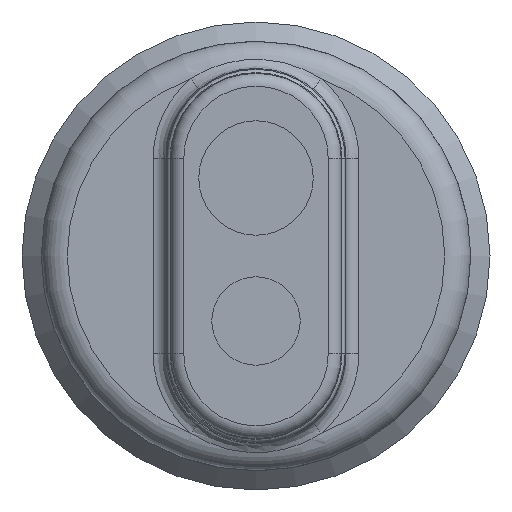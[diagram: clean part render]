
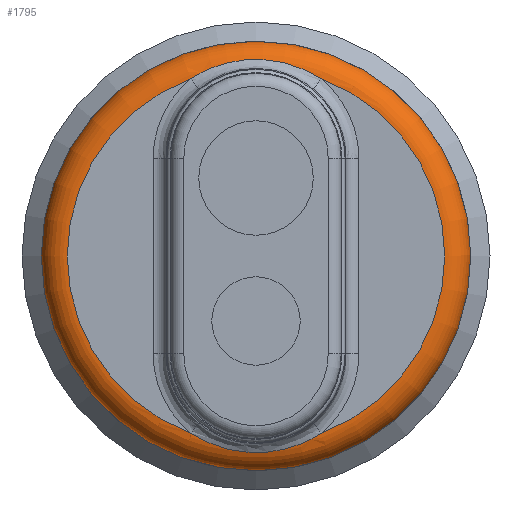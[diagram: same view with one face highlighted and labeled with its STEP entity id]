
A CAD part, left-side view. The second image highlights one B-rep face of the part: STEP entity #1795.
In plain terms, the highlighted toroidal (fillet/blend) face has major radius 7.26 mm and minor radius 1 mm.
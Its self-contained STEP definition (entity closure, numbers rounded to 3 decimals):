
#1309=CARTESIAN_POINT('',(-58.718,-2.506,-6.814));
#1310=VERTEX_POINT('',#1309);
#1427=CARTESIAN_POINT('',(-58.718,2.506,-6.814));
#1428=VERTEX_POINT('',#1427);
#1436=CARTESIAN_POINT('',(-58.718,2.506,-6.814));
#1437=CARTESIAN_POINT('',(-58.718,2.297,-6.95));
#1438=CARTESIAN_POINT('',(-58.709,1.852,-7.193));
#1439=CARTESIAN_POINT('',(-58.682,1.015,-7.482));
#1440=CARTESIAN_POINT('',(-58.669,0.257,-7.579));
#1441=CARTESIAN_POINT('',(-58.673,-0.441,-7.55));
#1442=CARTESIAN_POINT('',(-58.679,-0.82,-7.494));
#1443=CARTESIAN_POINT('',(-58.692,-1.31,-7.38));
#1444=CARTESIAN_POINT('',(-58.708,-1.852,-7.193));
#1445=CARTESIAN_POINT('',(-58.718,-2.297,-6.95));
#1446=CARTESIAN_POINT('',(-58.718,-2.506,-6.814));
#1447=B_SPLINE_CURVE_WITH_KNOTS('',3,(#1436,#1437,#1438,#1439,#1440,#1441,#1442,#1443,#1444,#1445,#1446),.UNSPECIFIED.,.F.,.U.,(4,1,1,1,1,1,1,1,4),(0.,0.077,0.154,0.27,0.309,0.367,0.386,0.463,0.541),.UNSPECIFIED.);
#1448=EDGE_CURVE('',#1428,#1310,#1447,.T.);
#1516=CARTESIAN_POINT('',(-58.718,2.506,6.814));
#1517=VERTEX_POINT('',#1516);
#1634=CARTESIAN_POINT('',(-58.718,-2.506,6.814));
#1635=VERTEX_POINT('',#1634);
#1643=CARTESIAN_POINT('',(-58.718,-2.506,6.814));
#1644=CARTESIAN_POINT('',(-58.718,-2.297,6.95));
#1645=CARTESIAN_POINT('',(-58.709,-1.852,7.193));
#1646=CARTESIAN_POINT('',(-58.682,-1.015,7.482));
#1647=CARTESIAN_POINT('',(-58.669,-0.257,7.579));
#1648=CARTESIAN_POINT('',(-58.673,0.441,7.55));
#1649=CARTESIAN_POINT('',(-58.679,0.82,7.494));
#1650=CARTESIAN_POINT('',(-58.692,1.31,7.38));
#1651=CARTESIAN_POINT('',(-58.708,1.852,7.193));
#1652=CARTESIAN_POINT('',(-58.718,2.297,6.95));
#1653=CARTESIAN_POINT('',(-58.718,2.506,6.814));
#1654=B_SPLINE_CURVE_WITH_KNOTS('',3,(#1643,#1644,#1645,#1646,#1647,#1648,#1649,#1650,#1651,#1652,#1653),.UNSPECIFIED.,.F.,.U.,(4,1,1,1,1,1,1,1,4),(0.,0.077,0.154,0.27,0.309,0.367,0.386,0.463,0.541),.UNSPECIFIED.);
#1655=EDGE_CURVE('',#1635,#1517,#1654,.T.);
#1757=CARTESIAN_POINT('',(-58.718,0.,0.0));
#1758=DIRECTION('',(1.0,0.0,0.0));
#1759=DIRECTION('',(0.0,1.0,0.0));
#1760=AXIS2_PLACEMENT_3D('',#1757,#1758,#1759);
#1761=CIRCLE('',#1760,7.26);
#1762=EDGE_CURVE('',#1635,#1310,#1761,.T.);
#1767=CARTESIAN_POINT('',(-57.718,0.,0.0));
#1768=DIRECTION('',(1.0,0.,0.0));
#1769=DIRECTION('',(0.0,0.0,-1.0));
#1770=AXIS2_PLACEMENT_3D('',#1767,#1768,#1769);
#1771=TOROIDAL_SURFACE('',#1770,7.26,1.);
#1772=CARTESIAN_POINT('',(-57.718,8.26,0.0));
#1773=VERTEX_POINT('',#1772);
#1774=CARTESIAN_POINT('',(-57.718,0.,0.0));
#1775=DIRECTION('',(1.0,0.0,0.0));
#1776=DIRECTION('',(0.0,1.0,0.0));
#1777=AXIS2_PLACEMENT_3D('',#1774,#1775,#1776);
#1778=CIRCLE('',#1777,8.26);
#1779=EDGE_CURVE('',#1773,#1773,#1778,.T.);
#1780=ORIENTED_EDGE('',*,*,#1779,.F.);
#1781=EDGE_LOOP('',(#1780));
#1782=FACE_OUTER_BOUND('',#1781,.T.);
#1783=ORIENTED_EDGE('',*,*,#1655,.F.);
#1784=ORIENTED_EDGE('',*,*,#1762,.T.);
#1785=ORIENTED_EDGE('',*,*,#1448,.F.);
#1786=CARTESIAN_POINT('',(-58.718,0.,0.0));
#1787=DIRECTION('',(1.0,0.0,0.0));
#1788=DIRECTION('',(0.0,1.0,0.0));
#1789=AXIS2_PLACEMENT_3D('',#1786,#1787,#1788);
#1790=CIRCLE('',#1789,7.26);
#1791=EDGE_CURVE('',#1428,#1517,#1790,.T.);
#1792=ORIENTED_EDGE('',*,*,#1791,.T.);
#1793=EDGE_LOOP('',(#1783,#1784,#1785,#1792));
#1794=FACE_BOUND('',#1793,.T.);
#1795=ADVANCED_FACE('',(#1782,#1794),#1771,.T.);
